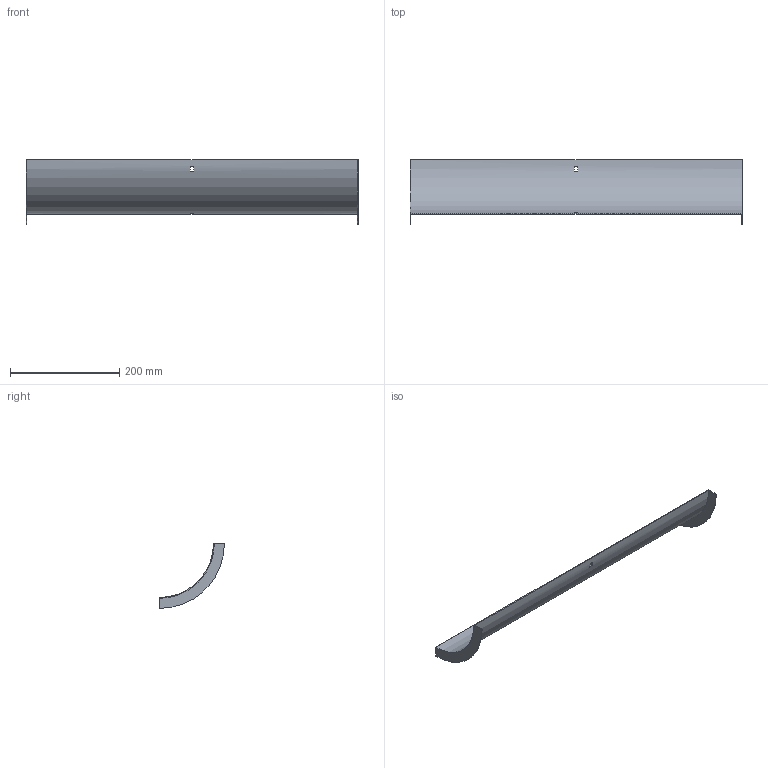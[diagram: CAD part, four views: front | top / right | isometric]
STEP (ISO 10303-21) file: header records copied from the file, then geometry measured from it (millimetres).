
FILE_DESCRIPTION (( 'STEP AP214' ), '1' );
FILE_NAME ('30N1R600.step', '2025-02-21T09:24:15', ( '' ), ( '' ), 'SwSTEP 2.0', 'SolidWorks 2023', '' );
FILE_SCHEMA (( 'AUTOMOTIVE_DESIGN' ));
Length unit declared in the file: millimetre
Products named in the file (1): 30N1R600
Bounding box: 607 x 118.5 x 118.5 mm (x, y, z)
Volume: 151294.6 mm3; surface area: 204307.4 mm2
Topology: 1 solids, 1 shells, 18 faces, 48 edges, 32 vertices
Faces by surface type: plane 14, cylinder 4
Entity records: 599 total; most frequent: DIRECTION 102, CARTESIAN_POINT 99, ORIENTED_EDGE 96, EDGE_CURVE 48, AXIS2_PLACEMENT_3D 35, LINE 32, VERTEX_POINT 32, VECTOR 32
